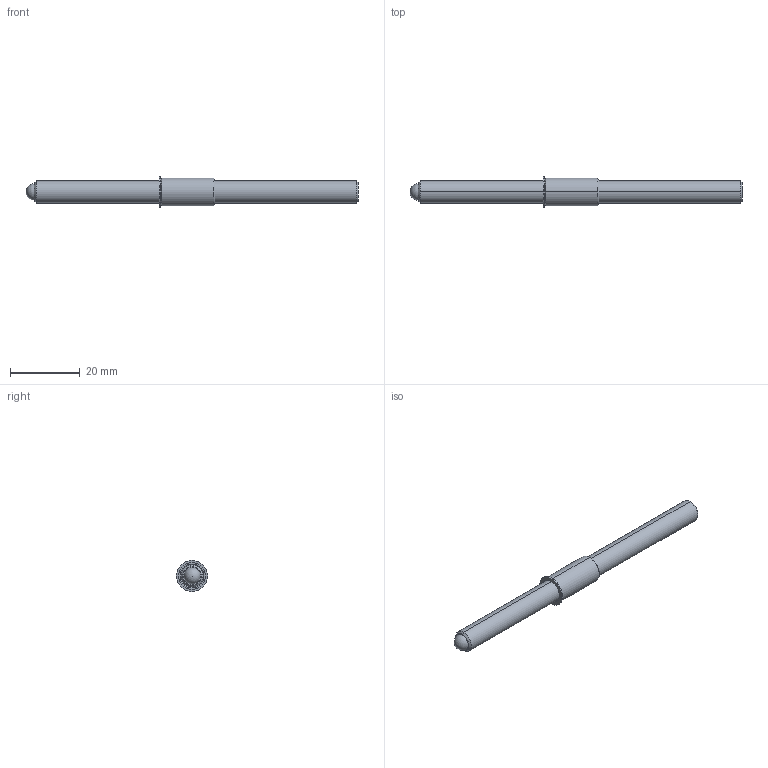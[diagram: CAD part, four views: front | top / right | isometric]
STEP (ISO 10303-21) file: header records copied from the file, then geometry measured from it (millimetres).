
FILE_DESCRIPTION (( 'STEP AP214' ), '1' );
FILE_NAME ('TSB250-80-3750_625-AA.STEP', '2013-03-14T13:18:07', ( 'workpc' ), ( 'Microsoft' ), 'SwSTEP 2.0', 'SolidWorks 2013', '' );
FILE_SCHEMA (( 'AUTOMOTIVE_DESIGN' ));
Length unit declared in the file: inch
Products named in the file (1): TSB250-80-3750_625-AA
Bounding box: 95.25 x 8.94 x 8.94 mm (x, y, z)
Surface area: 2432.8 mm2 (no closed solid volume)
Topology: 0 solids, 3 shells, 33 faces, 77 edges, 49 vertices
Faces by surface type: cone 12, plane 11, cylinder 8, sphere 2
Entity records: 1358 total; most frequent: DIRECTION 174, CARTESIAN_POINT 152, ORIENTED_EDGE 132, EDGE_CURVE 72, AXIS2_PLACEMENT_3D 68, VERTEX_POINT 46, LINE 38, EDGE_LOOP 38
